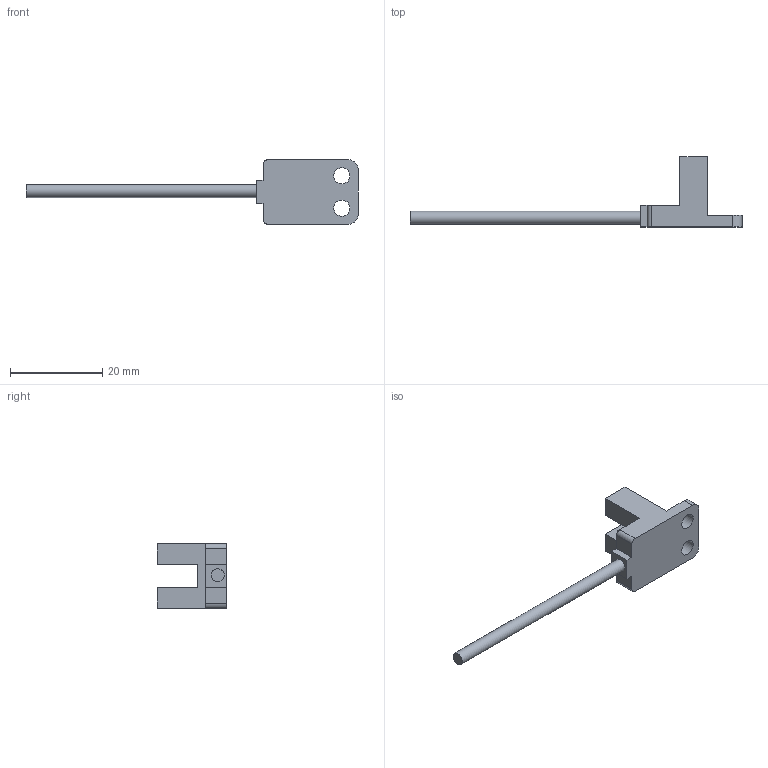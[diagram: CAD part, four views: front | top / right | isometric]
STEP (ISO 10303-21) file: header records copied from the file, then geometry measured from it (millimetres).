
FILE_DESCRIPTION(/* description */ (''),/* implementation_level */ '2;1');
FILE_NAME(/* name */ 'F:\HUAYIFENG\01)HUAYIFENG_宣传文件\01)HUAYIFENG_\X2\5BA34F2065874EF6\X0\_产品资料整合\03)产品3D文档\03)产品3D_槽型系列_K12_2019\03-03)LU45系列_3D\LU_Y45.stp',/* time_stamp */ '2020-08-12T19:24:35+08:00',/* author */ ('fengjiarun'),/* organization */ (''),/* preprocessor_version */ 'ST-DEVELOPER v16.5',/* originating_system */ 'Autodesk Inventor 2017',/* authorisation */ '');
FILE_SCHEMA (('AUTOMOTIVE_DESIGN { 1 0 10303 214 3 1 1 }'));
Length unit declared in the file: millimetre
Products named in the file (1): 零件30
Bounding box: 72.1 x 15.2 x 14 mm (x, y, z)
Volume: 2031.9 mm3; surface area: 1783 mm2
Topology: 1 solids, 1 shells, 50 faces, 137 edges, 92 vertices
Faces by surface type: plane 43, cylinder 7
Full cylindrical faces by diameter (mm): 2.8 x1, 3.5 x2
Entity records: 1585 total; most frequent: CARTESIAN_POINT 273, ORIENTED_EDGE 264, DIRECTION 248, EDGE_CURVE 132, LINE 118, VECTOR 118, VERTEX_POINT 90, AXIS2_PLACEMENT_3D 65
